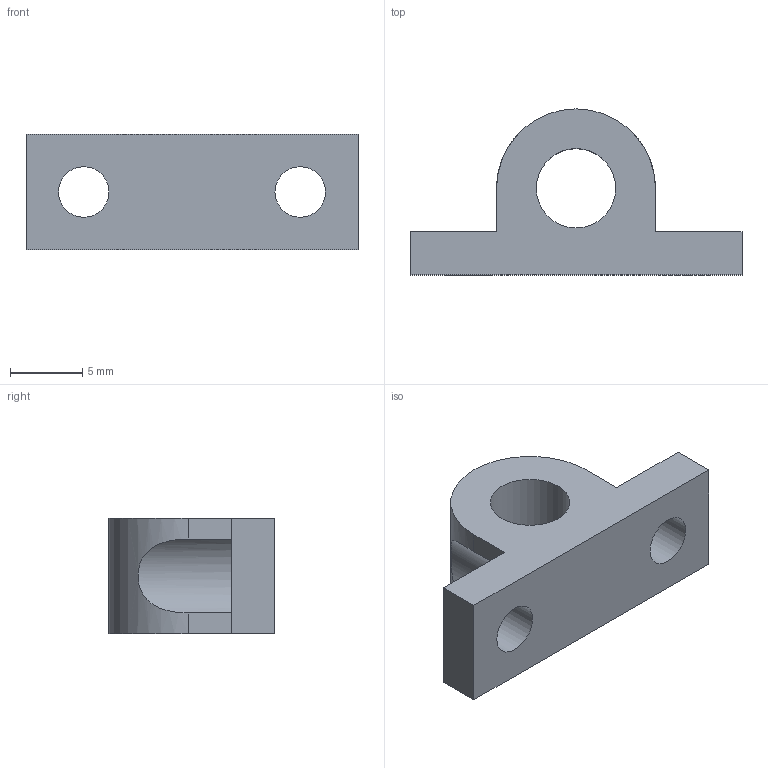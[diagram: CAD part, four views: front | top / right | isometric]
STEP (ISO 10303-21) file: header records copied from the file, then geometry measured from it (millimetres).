
FILE_DESCRIPTION(/* description */ (''),/* implementation_level */ '2;1');
FILE_NAME(/* name */ 'C:/Users/David Florian/Desktop/Cyber-Scooter-Step-Files/14-Brake-Cable-Manager1.step',/* time_stamp */ '2020-12-14T22:24:06-06:00',/* author */ (''),/* organization */ (''),/* preprocessor_version */ 'ST-DEVELOPER v18.1',/* originating_system */ 'Autodesk Translation Framework v9.7.1.1290',/* authorisation */ '');
FILE_SCHEMA (('AUTOMOTIVE_DESIGN { 1 0 10303 214 3 1 1 }'));
Length unit declared in the file: millimetre
Products named in the file (1): brake-Cable-management
Bounding box: 23 x 11.5 x 8 mm (x, y, z)
Volume: 902.4 mm3; surface area: 946.5 mm2
Topology: 1 solids, 1 shells, 17 faces, 45 edges, 30 vertices
Faces by surface type: plane 11, cylinder 6
Full cylindrical faces by diameter (mm): 3.5 x2, 5.5 x1
Entity records: 612 total; most frequent: CARTESIAN_POINT 135, ORIENTED_EDGE 90, DIRECTION 89, EDGE_CURVE 45, LINE 33, VECTOR 33, VERTEX_POINT 30, AXIS2_PLACEMENT_3D 28
